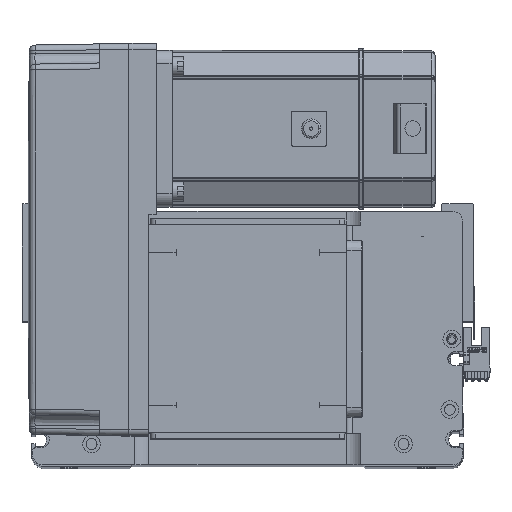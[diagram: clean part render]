
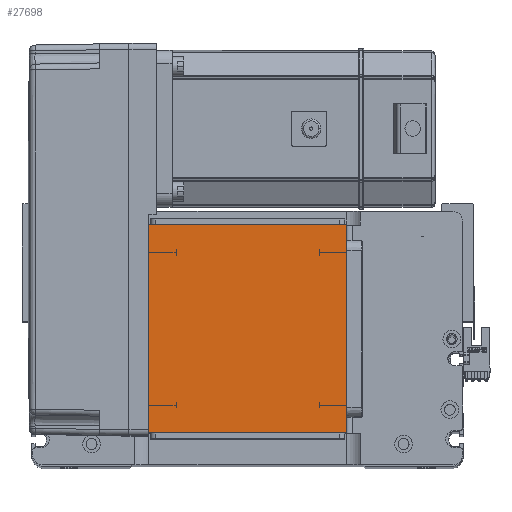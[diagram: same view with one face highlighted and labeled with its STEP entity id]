
A CAD part, top view. The second image highlights one B-rep face of the part: STEP entity #27698.
In plain terms, the highlighted planar face has unit normal (0, 0, 1).
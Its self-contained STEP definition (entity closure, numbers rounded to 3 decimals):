
#1178 = CARTESIAN_POINT ( 'NONE',  ( -50.5, 16., 115. ) ) ;
#2195 = DIRECTION ( 'NONE',  ( 1., 0., 0. ) ) ;
#2358 = VECTOR ( 'NONE', #28843, 1000. ) ;
#4416 = VECTOR ( 'NONE', #26105, 1000. ) ;
#5110 = VERTEX_POINT ( 'NONE', #29299 ) ;
#5552 = LINE ( 'NONE', #21187, #11134 ) ;
#5933 = VERTEX_POINT ( 'NONE', #40440 ) ;
#6960 = EDGE_LOOP ( 'NONE', ( #49549, #23982, #13309, #41984 ) ) ;
#7936 = CARTESIAN_POINT ( 'NONE',  ( 50.5, 122., 115. ) ) ;
#8032 = EDGE_CURVE ( 'NONE', #33973, #5110, #28168, .T. ) ;
#11134 = VECTOR ( 'NONE', #32719, 1000. ) ;
#13309 = ORIENTED_EDGE ( 'NONE', *, *, #28796, .T. ) ;
#16762 = EDGE_CURVE ( 'NONE', #5110, #5933, #17349, .T. ) ;
#17349 = LINE ( 'NONE', #18242, #4416 ) ;
#18242 = CARTESIAN_POINT ( 'NONE',  ( -50.5, 122., 115. ) ) ;
#20731 = VECTOR ( 'NONE', #28803, 1000. ) ;
#21187 = CARTESIAN_POINT ( 'NONE',  ( 50.5, 122., 115. ) ) ;
#23982 = ORIENTED_EDGE ( 'NONE', *, *, #24116, .T. ) ;
#24116 = EDGE_CURVE ( 'NONE', #5933, #34914, #31209, .T. ) ;
#25689 = CARTESIAN_POINT ( 'NONE',  ( 0., 0., 115. ) ) ;
#26029 = DIRECTION ( 'NONE',  ( 0., 0., 1. ) ) ;
#26105 = DIRECTION ( 'NONE',  ( 0., -1., 0. ) ) ;
#27698 = ADVANCED_FACE ( 'NONE', ( #48614 ), #49153, .T. ) ;
#28168 = LINE ( 'NONE', #48680, #2358 ) ;
#28796 = EDGE_CURVE ( 'NONE', #34914, #33973, #5552, .T. ) ;
#28803 = DIRECTION ( 'NONE',  ( 1., 0., 0. ) ) ;
#28843 = DIRECTION ( 'NONE',  ( -1., 0., 0. ) ) ;
#29299 = CARTESIAN_POINT ( 'NONE',  ( -50.5, 122., 115. ) ) ;
#31209 = LINE ( 'NONE', #1178, #20731 ) ;
#31306 = CARTESIAN_POINT ( 'NONE',  ( 50.5, 16., 115. ) ) ;
#32719 = DIRECTION ( 'NONE',  ( 0., 1., 0. ) ) ;
#33973 = VERTEX_POINT ( 'NONE', #7936 ) ;
#34914 = VERTEX_POINT ( 'NONE', #31306 ) ;
#40440 = CARTESIAN_POINT ( 'NONE',  ( -50.5, 16., 115. ) ) ;
#41984 = ORIENTED_EDGE ( 'NONE', *, *, #8032, .T. ) ;
#44261 = AXIS2_PLACEMENT_3D ( 'NONE', #25689, #26029, #2195 ) ;
#48614 = FACE_OUTER_BOUND ( 'NONE', #6960, .T. ) ;
#48680 = CARTESIAN_POINT ( 'NONE',  ( -50.5, 122., 115. ) ) ;
#49153 = PLANE ( 'NONE',  #44261 ) ;
#49549 = ORIENTED_EDGE ( 'NONE', *, *, #16762, .T. ) ;
